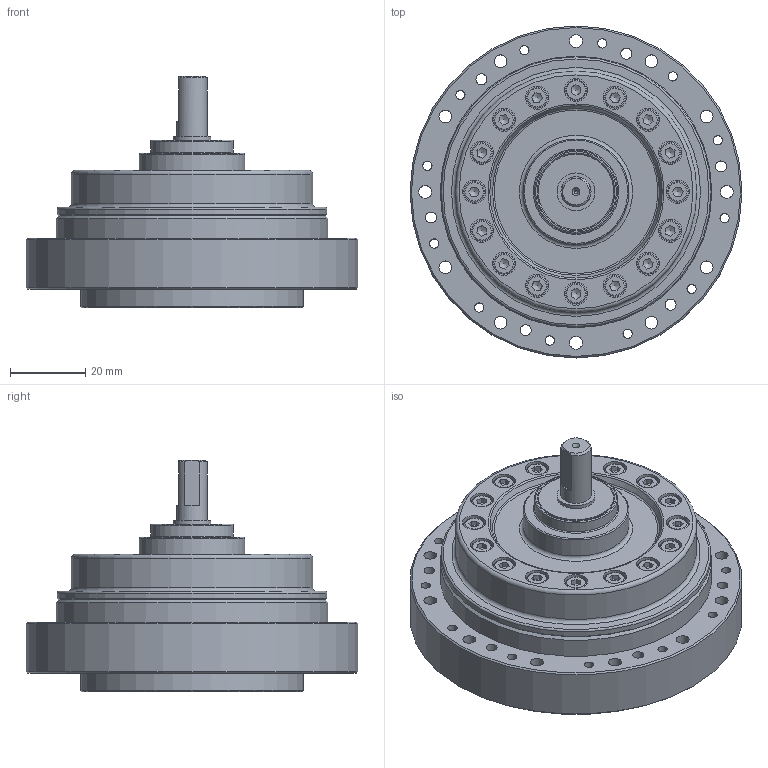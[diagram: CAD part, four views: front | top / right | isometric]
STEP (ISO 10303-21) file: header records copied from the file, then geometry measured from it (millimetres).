
FILE_DESCRIPTION(/* description */ (''),/* implementation_level */ '2;1');
FILE_NAME(/* name */ 'C:\Users\yin210\Desktop\CPU\17\DSC-17-AJ-M.stp',/* time_stamp */ '2022-05-20T15:56:13+08:00',/* author */ ('yin210'),/* organization */ (''),/* preprocessor_version */ 'ST-DEVELOPER v15.2',/* originating_system */ 'Autodesk Inventor 2014',/* authorisation */ '');
FILE_SCHEMA (('AUTOMOTIVE_DESIGN { 1 0 10303 214 3 1 1 }'));
Length unit declared in the file: centimetre
Products named in the file (1): DSC-17-AJ-M
Bounding box: 88 x 88 x 61.5 mm (x, y, z)
Volume: 157340.2 mm3; surface area: 28759.6 mm2
Topology: 1 solids, 1 shells, 342 faces, 797 edges, 519 vertices
Faces by surface type: plane 164, cylinder 104, cone 49, torus 25
Full cylindrical faces by diameter (mm): 1 x1, 2 x4, 2.459 x12, 2.9 x6, 3.242 x20, 3.4 x12, 5.5 x22, 6.2 x16, 8 x1, 10 x1, 20 x1, 22 x1, 28 x1, 45 x1, 59 x1, 64 x1, 71.5 x1, 72 x1, 88 x1
Entity records: 8505 total; most frequent: CARTESIAN_POINT 1553, DIRECTION 1400, ORIENTED_EDGE 1112, EDGE_LOOP 640, AXIS2_PLACEMENT_3D 601, EDGE_CURVE 556, VERTEX_POINT 454, ADVANCED_FACE 342
